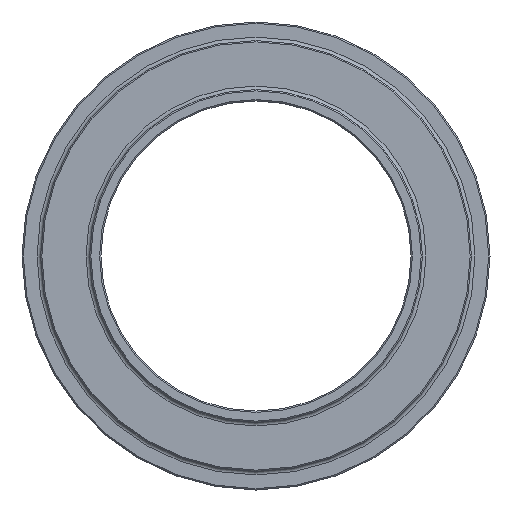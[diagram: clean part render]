
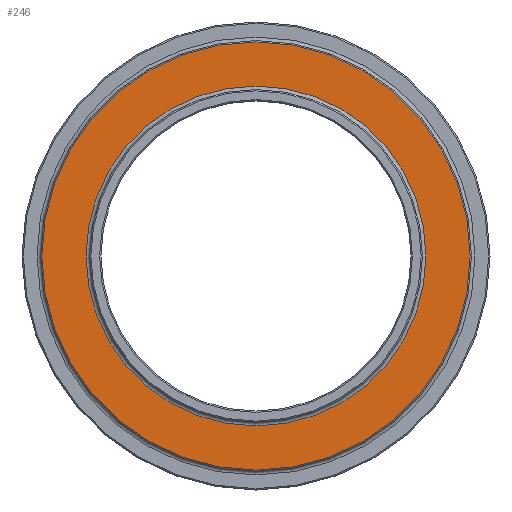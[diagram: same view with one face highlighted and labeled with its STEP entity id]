
A CAD part, left-side view. The second image highlights one B-rep face of the part: STEP entity #246.
In plain terms, the highlighted planar face has unit normal (-1, 0, 0).
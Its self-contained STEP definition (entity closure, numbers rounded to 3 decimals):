
#21=FACE_BOUND('',#72,.T.);
#25=PLANE('',#288);
#55=FACE_OUTER_BOUND('',#71,.T.);
#71=EDGE_LOOP('',(#183));
#72=EDGE_LOOP('',(#184));
#91=CIRCLE('',#283,38.85);
#95=CIRCLE('',#289,48.95);
#116=VERTEX_POINT('',#420);
#119=VERTEX_POINT('',#431);
#139=EDGE_CURVE('',#116,#116,#91,.T.);
#144=EDGE_CURVE('',#119,#119,#95,.T.);
#183=ORIENTED_EDGE('',*,*,#144,.F.);
#184=ORIENTED_EDGE('',*,*,#139,.F.);
#246=ADVANCED_FACE('',(#55,#21),#25,.T.);
#283=AXIS2_PLACEMENT_3D('',#422,#329,#330);
#288=AXIS2_PLACEMENT_3D('',#430,#340,#341);
#289=AXIS2_PLACEMENT_3D('',#432,#342,#343);
#329=DIRECTION('center_axis',(-1.,0.,0.));
#330=DIRECTION('ref_axis',(0.,-1.,0.));
#340=DIRECTION('center_axis',(-1.,0.,0.));
#341=DIRECTION('ref_axis',(0.,0.,1.));
#342=DIRECTION('center_axis',(1.,0.,0.));
#343=DIRECTION('ref_axis',(0.,-1.,0.));
#420=CARTESIAN_POINT('',(-17.,0.,38.85));
#422=CARTESIAN_POINT('Origin',(-17.,0.,0.));
#430=CARTESIAN_POINT('Origin',(-17.,49.25,0.));
#431=CARTESIAN_POINT('',(-17.,48.95,0.));
#432=CARTESIAN_POINT('Origin',(-17.,0.,0.));
